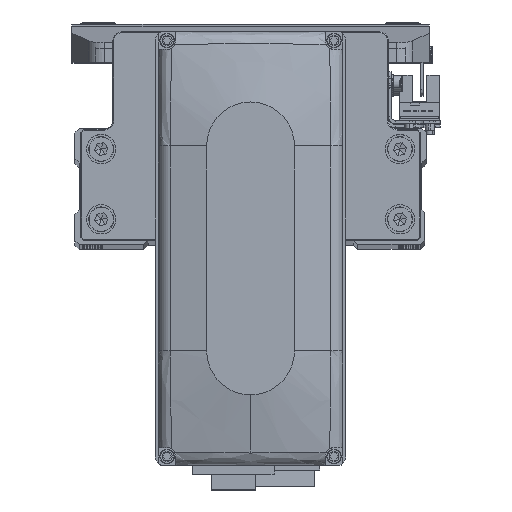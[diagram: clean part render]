
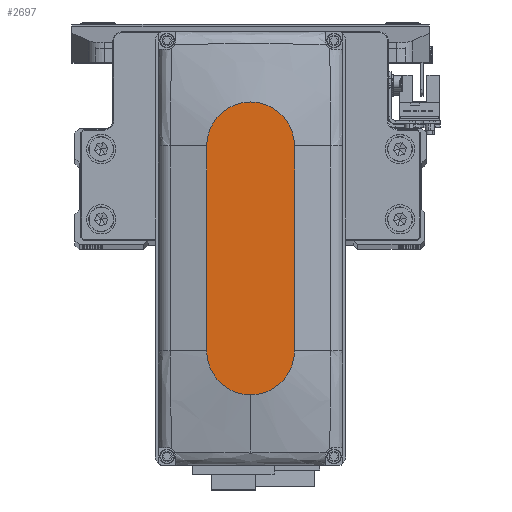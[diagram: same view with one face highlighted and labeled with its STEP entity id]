
A CAD part, top view. The second image highlights one B-rep face of the part: STEP entity #2697.
In plain terms, the highlighted planar face has unit normal (0, 0, 1).
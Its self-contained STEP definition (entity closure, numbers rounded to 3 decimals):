
#374 = VECTOR ( 'NONE', #37241, 1000. ) ;
#1975 = CARTESIAN_POINT ( 'NONE',  ( 50., 0., 35. ) ) ;
#2380 = CARTESIAN_POINT ( 'NONE',  ( 35., 0., 35. ) ) ;
#2697 = ADVANCED_FACE ( 'NONE', ( #22465 ), #37093, .T. ) ;
#3156 = ORIENTED_EDGE ( 'NONE', *, *, #16260, .T. ) ;
#3370 = DIRECTION ( 'NONE',  ( -1., 0., 0. ) ) ;
#4131 = VERTEX_POINT ( 'NONE', #18319 ) ;
#4268 = CARTESIAN_POINT ( 'NONE',  ( 0., 0., 35. ) ) ;
#5018 = EDGE_CURVE ( 'NONE', #4131, #42103, #21552, .T. ) ;
#7075 = CARTESIAN_POINT ( 'NONE',  ( 35., -15., 35. ) ) ;
#7253 = CARTESIAN_POINT ( 'NONE',  ( 35., 0., 35. ) ) ;
#8031 = LINE ( 'NONE', #22620, #374 ) ;
#8080 = VECTOR ( 'NONE', #3370, 1000. ) ;
#10300 = AXIS2_PLACEMENT_3D ( 'NONE', #29362, #43997, #11193 ) ;
#10475 = EDGE_CURVE ( 'NONE', #35762, #46096, #8031, .T. ) ;
#11193 = DIRECTION ( 'NONE',  ( 1., 0., 0. ) ) ;
#15922 = CIRCLE ( 'NONE', #42713, 15. ) ;
#16260 = EDGE_CURVE ( 'NONE', #42103, #35762, #30920, .T. ) ;
#16983 = DIRECTION ( 'NONE',  ( 0., 0., 1. ) ) ;
#18319 = CARTESIAN_POINT ( 'NONE',  ( 35., 15., 35. ) ) ;
#18401 = AXIS2_PLACEMENT_3D ( 'NONE', #2380, #16983, #31575 ) ;
#18888 = DIRECTION ( 'NONE',  ( 0., 0., 1. ) ) ;
#20719 = EDGE_LOOP ( 'NONE', ( #25750, #3156, #27826, #42383, #23029 ) ) ;
#20871 = CARTESIAN_POINT ( 'NONE',  ( -35., 15., 35. ) ) ;
#20983 = EDGE_CURVE ( 'NONE', #46096, #34813, #39064, .T. ) ;
#21552 = LINE ( 'NONE', #36169, #8080 ) ;
#21850 = DIRECTION ( 'NONE',  ( 0., 0., 1. ) ) ;
#22465 = FACE_OUTER_BOUND ( 'NONE', #20719, .T. ) ;
#22620 = CARTESIAN_POINT ( 'NONE',  ( -35., -15., 35. ) ) ;
#23029 = ORIENTED_EDGE ( 'NONE', *, *, #28882, .T. ) ;
#25750 = ORIENTED_EDGE ( 'NONE', *, *, #5018, .T. ) ;
#26868 = AXIS2_PLACEMENT_3D ( 'NONE', #4268, #18888, #33476 ) ;
#27826 = ORIENTED_EDGE ( 'NONE', *, *, #10475, .T. ) ;
#28882 = EDGE_CURVE ( 'NONE', #34813, #4131, #15922, .T. ) ;
#29362 = CARTESIAN_POINT ( 'NONE',  ( -35., 0., 35. ) ) ;
#30920 = CIRCLE ( 'NONE', #10300, 15. ) ;
#31575 = DIRECTION ( 'NONE',  ( 1., 0., 0. ) ) ;
#32167 = CARTESIAN_POINT ( 'NONE',  ( -35., -15., 35. ) ) ;
#33476 = DIRECTION ( 'NONE',  ( 1., 0., 0. ) ) ;
#34813 = VERTEX_POINT ( 'NONE', #1975 ) ;
#35762 = VERTEX_POINT ( 'NONE', #32167 ) ;
#36169 = CARTESIAN_POINT ( 'NONE',  ( -35., 15., 35. ) ) ;
#36464 = DIRECTION ( 'NONE',  ( 1., 0., 0. ) ) ;
#37093 = PLANE ( 'NONE',  #26868 ) ;
#37241 = DIRECTION ( 'NONE',  ( 1., 0., 0. ) ) ;
#39064 = CIRCLE ( 'NONE', #18401, 15. ) ;
#42103 = VERTEX_POINT ( 'NONE', #20871 ) ;
#42383 = ORIENTED_EDGE ( 'NONE', *, *, #20983, .T. ) ;
#42713 = AXIS2_PLACEMENT_3D ( 'NONE', #7253, #21850, #36464 ) ;
#43997 = DIRECTION ( 'NONE',  ( 0., 0., 1. ) ) ;
#46096 = VERTEX_POINT ( 'NONE', #7075 ) ;
